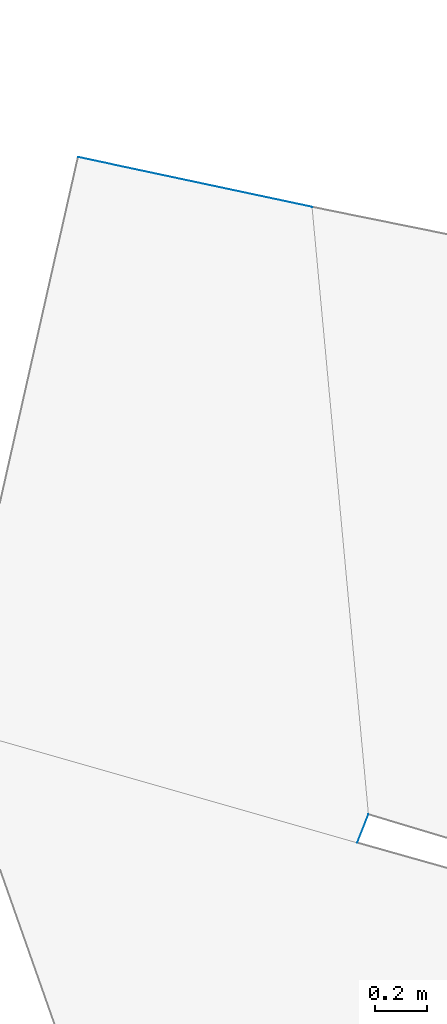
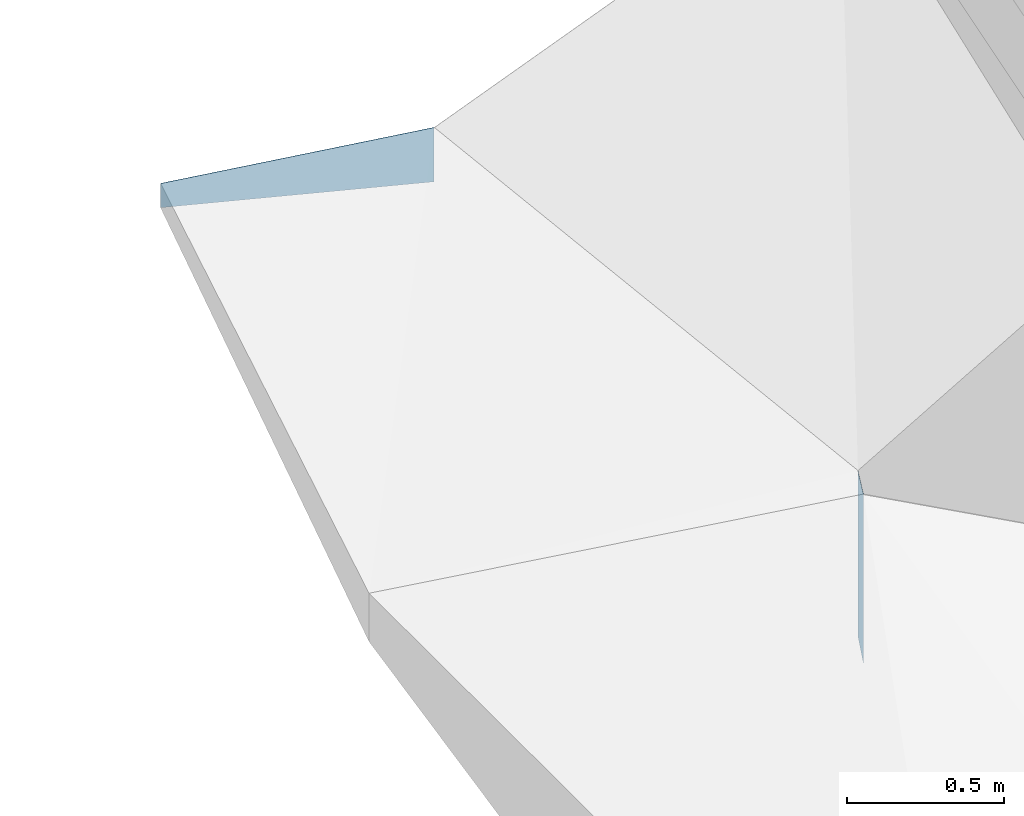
# Not in any storey, part 46 of 57: 2 walls.
"""IFC4 building model written with IfcOpenShell, lengths in metres."""

from ifc_helpers import new_model, entity, si_unit, converted_unit, origin, place, context, subcontext, project, spatial, face_set, surface_model, element, save


model = new_model("IFC4")

# Units and contexts
model_context = context("Model", 3, precision=1e-05, world=origin())
body_context = subcontext(model_context, "Body", "Model", "MODEL_VIEW")
ifc_project = project(units=[converted_unit("PLANEANGLEUNIT", "DEGREE", entity("IfcRatioMeasure", 0.0174532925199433), si_unit("PLANEANGLEUNIT", "RADIAN"), dimensions=[0, 0, 0, 0, 0, 0, 0]), si_unit("AREAUNIT", "SQUARE_METRE"), si_unit("LENGTHUNIT", "METRE")], contexts=[model_context])

# Site, building
site_placement = place(None, origin())
site = spatial("IfcSite", under=ifc_project, at=site_placement, Name="_site")
building_placement = place(site_placement, origin())
building = spatial("IfcBuilding", under=site, at=building_placement, Name="_building")

# Walls
wall_1_placement = place(building_placement, origin())
element("IfcWall", 1, at=wall_1_placement, inside=building, Name="Wall", PredefinedType="NOTDEFINED", context=body_context, shape_type="SurfaceModel", body=[
    surface_model("IfcFaceBasedSurfaceModel", [(192.005, 88.905, 108.39), (191.962, 88.796, 108.38), (191.962, 88.796, 107.72), (192.005, 88.905, 107.744)], [face_set([[[0, 1, 2, 3]]])]),
])
wall_2_placement = place(building_placement, origin())
element("IfcWall", 2, at=wall_2_placement, inside=building, Name="Wall", PredefinedType="NOTDEFINED", context=body_context, shape_type="SurfaceModel", body=[
    surface_model("IfcFaceBasedSurfaceModel", [(190.893, 91.422, 108.37), (191.789, 91.231, 108.39), (191.789, 91.231, 108.178), (190.893, 91.422, 108.275)], [face_set([[[0, 1, 2, 3]]])]),
])

save(model, "model.ifc")
